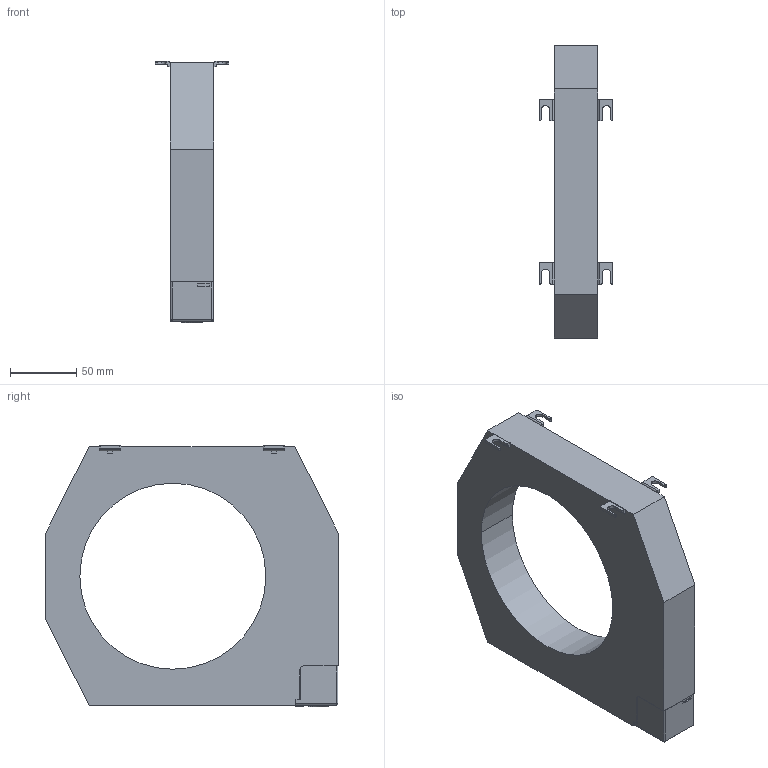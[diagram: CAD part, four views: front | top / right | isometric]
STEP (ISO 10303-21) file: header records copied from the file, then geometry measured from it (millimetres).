
FILE_DESCRIPTION (( 'STEP AP214' ), '1' );
FILE_NAME ('LW-SK10000-140.STEP', '2022-08-31T12:33:15', ( 'CAD-SW' ), ( '' ), 'SwSTEP 2.0', 'SolidWorks 2021', '' );
FILE_SCHEMA (( 'AUTOMOTIVE_DESIGN' ));
Length unit declared in the file: millimetre
Products named in the file (6): LW-SK10000_-140; LW-SK10000-140; 09_0404_00_02_01; LW-SK10000-70_R8; 09_0404_00_02; 09_0404_00_02_02
Assembly tree (5 placements, depth 3):
  LW-SK10000-140
    LW-SK10000-70_R8
    LW-SK10000_-140
    09_0404_00_02
      09_0404_00_02_01
      09_0404_00_02_02
Bounding box: 55.7 x 220 x 196.7 mm (x, y, z)
Volume: 781105.8 mm3; surface area: 98568.2 mm2
Topology: 4 solids, 4 shells, 404 faces, 1064 edges, 684 vertices
Faces by surface type: plane 228, cylinder 97, cone 38, bspline 29, torus 10, sphere 2
Entity records: 14656 total; most frequent: CARTESIAN_POINT 4034, ORIENTED_EDGE 2108, DIRECTION 1954, EDGE_CURVE 1054, VERTEX_POINT 684, VECTOR 674, LINE 674, AXIS2_PLACEMENT_3D 640
